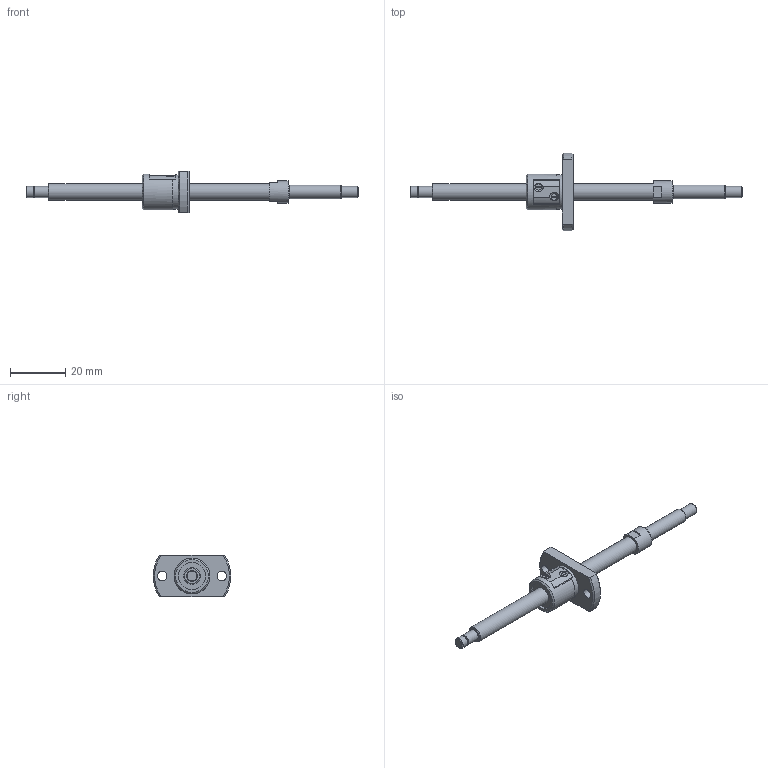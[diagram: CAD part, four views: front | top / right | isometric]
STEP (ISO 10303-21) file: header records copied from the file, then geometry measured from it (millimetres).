
FILE_DESCRIPTION(/* description */ ('STEP AP214'),/* implementation_level */ '2;1');
FILE_NAME(/* name */ 'SG0601-077R120C5B0X(34)',/* time_stamp */ '2026-07-20T20:11:58+02:00',/* author */ ('License CC BY-ND 4.0'),/* organization */ ('CADENAS'),/* preprocessor_version */ 'ST-DEVELOPER v20',/* originating_system */ 'PARTsolutions',/* authorisation */ ' ');
FILE_SCHEMA (('AUTOMOTIVE_DESIGN {1 0 10303 214 3 1 1}'));
Length unit declared in the file: millimetre
Products named in the file (3): SG0601-077R120C5B0X(34); SG0601-77R120C5B_shaft; SG0601 C5_nut
Assembly tree (2 placements, depth 2):
  SG0601-077R120C5B0X(34)
    SG0601-77R120C5B_shaft
    SG0601 C5_nut
Bounding box: 120 x 27.91 x 15 mm (x, y, z)
Volume: 5748.3 mm3; surface area: 4235.8 mm2
Topology: 2 solids, 2 shells, 78 faces, 185 edges, 122 vertices
Faces by surface type: plane 37, cylinder 26, cone 14, torus 1
Full cylindrical faces by diameter (mm): 3.4 x2, 3.7 x1, 4 x3, 5 x1, 6 x2, 8 x1, 10 x2, 12.6 x1, 13 x1
Entity records: 2167 total; most frequent: CARTESIAN_POINT 403, DIRECTION 368, ORIENTED_EDGE 300, AXIS2_PLACEMENT_3D 155, EDGE_CURVE 150, EDGE_LOOP 120, FACE_BOUND 120, VERTEX_POINT 112
